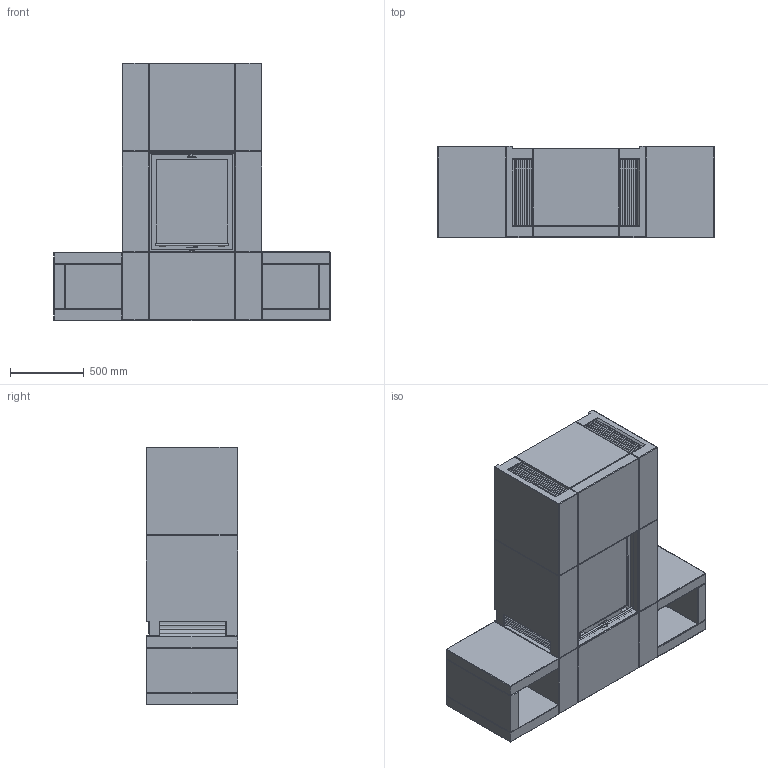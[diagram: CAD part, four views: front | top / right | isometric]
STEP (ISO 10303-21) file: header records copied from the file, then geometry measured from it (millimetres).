
FILE_DESCRIPTION( ( 'Unknown' ), '1' );
FILE_NAME( 'C:/Documents and Settings/hapierrea/Application Data/Unigraphics Solutions/Solid Edge/Insight/insight/Insight/interior models/C21C p Wood Storage L R Assembly.stp', '2010', ( 'Unknown' ), ( 'NIBE AB' ), 'PSStep 11.0', 'Solid Edge', ' ' );
FILE_SCHEMA( ( 'AUTOMOTIVE_DESIGN { 1 0 10303 214 1 1 1 1 }' ) );
Length unit declared in the file: millimetre
Products named in the file (28): Assem1; Grills C21; Front set C21C; Insert i20; Firebox insulation i20; Door i20; Door frame i20; Glass i20; Concrete set C21-oa0; Grate i10 i20; Wood storage left C21; Fire i20
Bounding box: 1882 x 620 x 1752.01 mm (x, y, z)
Volume: 1831676437.1 mm3; surface area: 53580670.5 mm2
Topology: 54 solids, 54 shells, 3368 faces, 8740 edges, 5734 vertices
Faces by surface type: plane 2496, extrusion 584, cylinder 264, cone 20, sphere 4
Full cylindrical faces by diameter (mm): 10 x32, 12 x2, 100 x6, 200 x6
Entity records: 71973 total; most frequent: CARTESIAN_POINT 18745, ORIENTED_EDGE 8688, DIRECTION 6783, EDGE_CURVE 4344, VECTOR 2917, VERTEX_POINT 2866, LINE 2625, AXIS2_PLACEMENT_3D 1933
